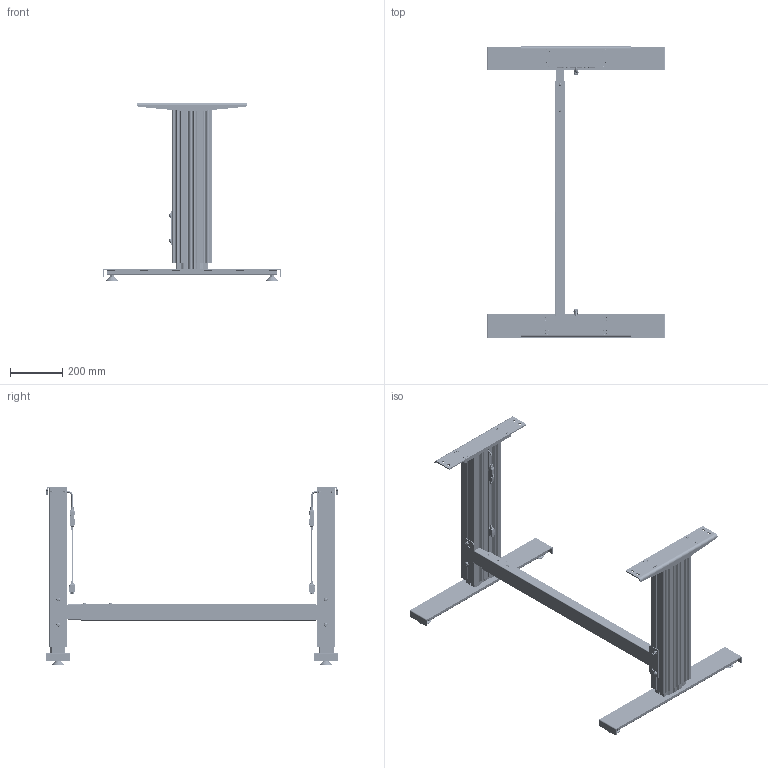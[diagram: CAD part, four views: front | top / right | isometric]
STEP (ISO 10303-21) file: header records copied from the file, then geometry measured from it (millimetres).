
FILE_DESCRIPTION(/* description */ ('Unknown'),/* implementation_level */ '2;1');
FILE_NAME(/* name */ 'Untergestell SM-2 1440 970-1620 XX XX_01-Eingefahren',/* time_stamp */ '2022-01-26T14:50:18+01:00',/* author */ ('Unknown'),/* organization */ ('Unknown'),/* preprocessor_version */ 'ST-DEVELOPER v18.1',/* originating_system */ 'Solid Edge',/* authorisation */ 'Unknown');
FILE_SCHEMA (('AUTOMOTIVE_DESIGN {1 0 10303 214 3 1 1}'));
Products named in the file (38): Untergestell SM-2 1440 970-1620 XX XX; 902.00004_oa_0; 126.00138; 119.00312; 119.00311; 142.00166; 124.00201_oa_1; 142.00241; 110.00104_oa_2; 115.00200_oa_3; 124.00151; Kabel Motor Sx; 142.00343; 902.00004_oa_4; 124.00201_oa_5; 110.00104_oa_6; 115.00200_oa_7; 127.00635; 060339~2; 060340~3; Sechskantmutter M6 DIN 934; Scheibe Ø6,4 DIN 125; Halbrundkopfschraube mit Innensechskant M8x12 ISO 7380-1; Scheibe Ø8,4 DIN 125; Nutenstein M8_montiert; Halbrundkopfschraube mit Innensechskant und Bund M6x16 ISO 7380-2; 127.00545; 127.00548; 127.00566; 127.00567; 127.00548_461_469_Kehlnaht 1_oa_8; 113.00006; 113.00006-ohne Mutter; Mutter M10; 115.00165; 127.00223; 142.00279; 142.00068
Assembly tree (82 placements, depth 4):
  Untergestell SM-2 1440 970-1620 XX XX
    902.00004_oa_0
      126.00138
      119.00312
      119.00311
      142.00166  x4
      124.00201_oa_1
      142.00241  x2
      110.00104_oa_2
      115.00200_oa_3
      124.00151
      Kabel Motor Sx
      142.00343  x2
    902.00004_oa_4
      126.00138
      119.00312
      119.00311
      142.00166  x4
      124.00201_oa_5
      142.00241  x2
      110.00104_oa_6
      115.00200_oa_7
      124.00151
      Kabel Motor Sx
      142.00343  x2
    127.00635
      060339~2
      060340~3
      Sechskantmutter M6 DIN 934  x4
      Scheibe Ø6,4 DIN 125  x4
      Halbrundkopfschraube mit Innensechskant M8x12 ISO 7380-1  x4
      Scheibe Ø8,4 DIN 125  x4
      Nutenstein M8_montiert  x4
      Halbrundkopfschraube mit Innensechskant und Bund M6x16 ISO 7380-2  x4
    127.00545  x2
      127.00548
        127.00566
        127.00567
        127.00548_461_469_Kehlnaht 1_oa_8
      113.00006
        113.00006-ohne Mutter
        Mutter M10
    115.00165  x2
      127.00223
      142.00279
      142.00068
Bounding box: 680 x 1110 x 680 mm (x, y, z)
Volume: 7463168.3 mm3; surface area: 3893944.6 mm2
Topology: 106 solids, 106 shells, 8282 faces, 22827 edges, 15025 vertices
Faces by surface type: plane 4642, cylinder 2872, torus 290, cone 244, bspline 218, sphere 16
Full cylindrical faces by diameter (mm): 1.5 x12, 1.82 x12, 2.459 x2, 2.7 x12, 3.242 x4, 3.4 x2, 4 x8, 5 x10, 5.5 x8, 6 x14, 6.4 x4, 6.647 x12, 7 x20, 8 x16, 8.376 x10, 8.5 x28, 8.7 x8, 9 x8, 9.5 x4, 10 x4, 12 x4, 13.6 x4, 14 x4, 15 x4, 16.8 x4, 19 x4, 25 x12, 29 x4, 30 x4, 35 x4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
Entity records: 146329 total; most frequent: CARTESIAN_POINT 26865, ORIENTED_EDGE 20926, DIRECTION 20512, EDGE_CURVE 10463, VERTEX_POINT 6998, AXIS2_PLACEMENT_3D 6914, LINE 6684, VECTOR 6684
